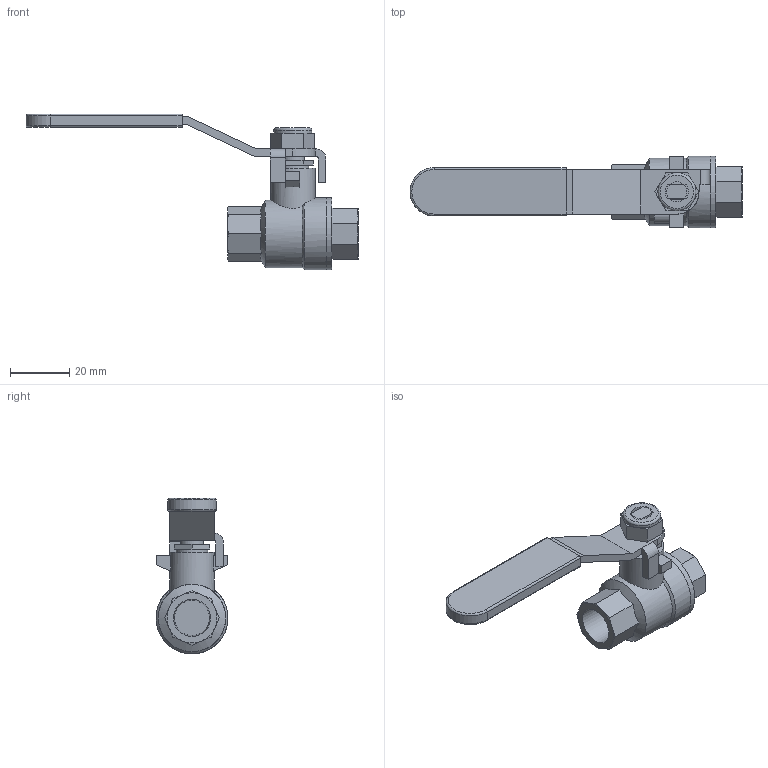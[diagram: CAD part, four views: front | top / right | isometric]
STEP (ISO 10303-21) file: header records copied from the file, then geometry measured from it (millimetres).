
FILE_DESCRIPTION((' '),'2;1');
FILE_NAME('N:\Technical Support\Private\Jomar Valve CAD\Ball Valves\Brass\.25 JF-100T (100-101)FusionCopy.stp.step','2016-04-27T16:41:43',(' '),(' '),' ','ACIS',' ');
FILE_SCHEMA(('CONFIG_CONTROL_DESIGN'));
Length unit declared in the file: inch
Products named in the file (8): N:\Technical Support\Private\Jomar Valve CAD\Ball Valves\Brass\.25 JF-100T (100-101)FusionCopy.stp.step; Body1; Body2; Body3; Body4; Body5; Body6; Body7
Assembly tree (7 placements, depth 2):
  N:\Technical Support\Private\Jomar Valve CAD\Ball Valves\Brass\.25 JF-100T (100-101)FusionCopy.stp.step
    Body1
    Body2
    Body3
    Body4
    Body5
    Body6
    Body7
Bounding box: 111.89 x 24.26 x 52.51 mm (x, y, z)
Volume: 23685 mm3; surface area: 13379.7 mm2
Topology: 7 solids, 7 shells, 134 faces, 311 edges, 197 vertices
Faces by surface type: plane 83, cylinder 22, cone 19, bspline 7, torus 3
Full cylindrical faces by diameter (mm): 6.858 x1, 7.874 x1, 8.509 x1, 10.668 x1, 12.751 x1, 14.986 x1, 22.733 x1, 24.257 x2
Entity records: 4858 total; most frequent: CARTESIAN_POINT 857, DIRECTION 609, ORIENTED_EDGE 584, EDGE_CURVE 292, AXIS2_PLACEMENT_3D 220, VERTEX_POINT 191, VECTOR 169, LINE 169
